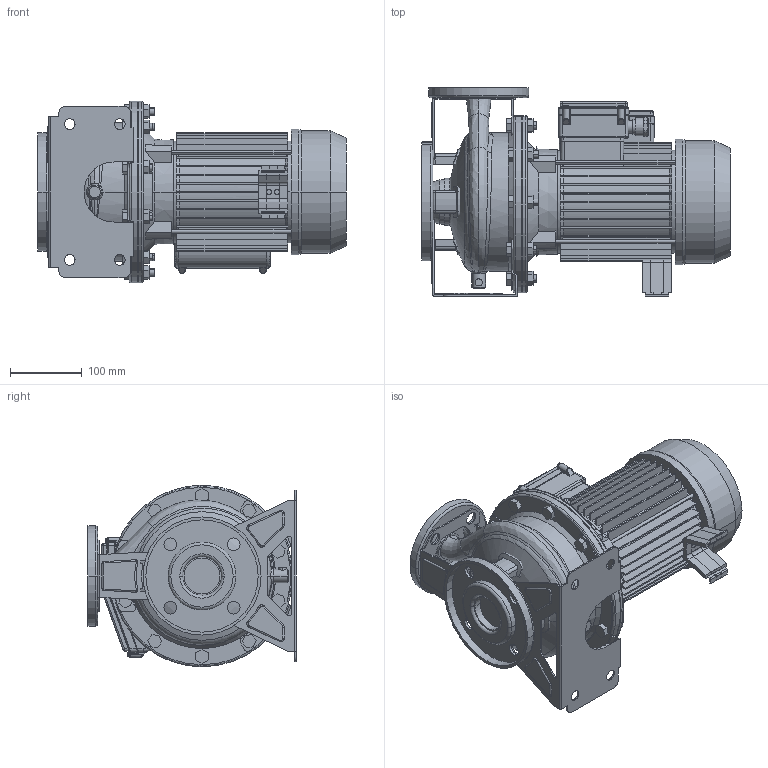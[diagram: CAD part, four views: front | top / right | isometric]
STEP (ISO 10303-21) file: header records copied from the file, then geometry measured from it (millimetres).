
FILE_DESCRIPTION((''),'2;1');
FILE_NAME('3M_32-160_2_2_M_ASM','2016-09-16T',('rosa'),('"Ebara Pumps Europe +39.444.706811"'),'PRO/ENGINEER BY PARAMETRIC TECHNOLOGY CORPORATION, 2012130','PRO/ENGINEER BY PARAMETRIC TECHNOLOGY CORPORATION, 2012130','');
FILE_SCHEMA(('AUTOMOTIVE_DESIGN { 1 0 10303 214 1 1 1 1 }'));
Length unit declared in the file: millimetre
Products named in the file (12): CORPO_32-160_AF0; ASP_32-160; FLANGIA_DIN_50; MAND_32-160; FLANGIA_DIN_32; BASE_3M_32-160; CORPO_SALDATO_32-160_ASM; SUPPORTO_3M_190_90; MEC_90X120_M; SOSTEGNO_72004; COPRIMORSETTIERA_MEC80_90_M; 3M_32-160_2_2_M_ASM
Assembly tree (12 placements, depth 3):
  3M_32-160_2_2_M_ASM
    CORPO_SALDATO_32-160_ASM
      CORPO_32-160_AF0
      ASP_32-160
      FLANGIA_DIN_50
      MAND_32-160
      FLANGIA_DIN_32
      BASE_3M_32-160
    SUPPORTO_3M_190_90
    MEC_90X120_M
    SOSTEGNO_72004  x2
    COPRIMORSETTIERA_MEC80_90_M
Bounding box: 432 x 292 x 254 mm (x, y, z)
Volume: 7831583.7 mm3; surface area: 1069905.3 mm2
Topology: 14 solids, 14 shells, 1340 faces, 3367 edges, 2115 vertices
Faces by surface type: plane 628, cylinder 446, cone 100, torus 85, bspline 73, sphere 8
Entity records: 56551 total; most frequent: CARTESIAN_POINT 12825, DIRECTION 6654, ORIENTED_EDGE 6566, PRESENTATION_STYLE_ASSIGNMENT 3296, STYLED_ITEM 3296, CURVE_STYLE 3283, EDGE_CURVE 3283, AXIS2_PLACEMENT_3D 2472
